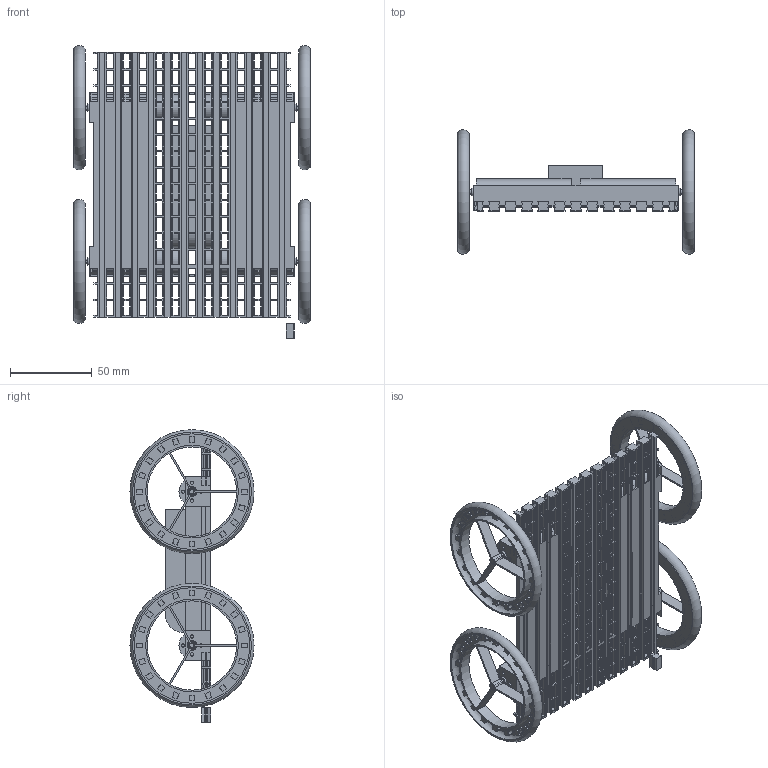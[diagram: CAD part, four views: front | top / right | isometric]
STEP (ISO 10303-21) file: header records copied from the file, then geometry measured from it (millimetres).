
FILE_DESCRIPTION(/* description */ (''),/* implementation_level */ '2;1');
FILE_NAME(/* name */ 'C:/Users/priba/Documents/Temp/mrm-bldc16x36-42.3_ChassisMazeLine.step',/* time_stamp */ '2019-11-02T07:45:44+01:00',/* author */ (''),/* organization */ (''),/* preprocessor_version */ 'ST-DEVELOPER v18',/* originating_system */ 'Autodesk Translation Framework v8.9.1.1155',/* authorisation */ '');
FILE_SCHEMA (('AUTOMOTIVE_DESIGN { 1 0 10303 214 3 1 1 }'));
Length unit declared in the file: millimetre
Products named in the file (16): mrm-bldc16x36-42.3_ChassisMazeLine; mrm-bldc16x36-42.3; mrm-bldc16x36-42.3 v2(Mirror); mrm-bldc16x36-42.3 v2(Mirror) (1); mrm-bldc16x36-42.3 v2(Mirror)(Mirror); BatteryZippy1000; Wheel3-70; Wheel3-70 v4(Mirror); WheelCenter3mm v3(Mirror); WheelTyre v5(Mirror) (2); Wheel3-70 v4(Mirror) (1); WheelCenter3mm v3(Mirror) (1); WheelTyre v5(Mirror); Wheel3-70 v4(Mirror)(Mirror) (1); WheelCenter3mm v3(Mirror)(Mirror) (1); WheelTyre v5(Mirror) (2)(Mirror)
Assembly tree (15 placements, depth 3):
  mrm-bldc16x36-42.3_ChassisMazeLine
    mrm-bldc16x36-42.3
    mrm-bldc16x36-42.3 v2(Mirror)
    mrm-bldc16x36-42.3 v2(Mirror) (1)
    mrm-bldc16x36-42.3 v2(Mirror)(Mirror)
    BatteryZippy1000
    Wheel3-70
    Wheel3-70 v4(Mirror)
      WheelCenter3mm v3(Mirror)
      WheelTyre v5(Mirror) (2)
    Wheel3-70 v4(Mirror) (1)
      WheelCenter3mm v3(Mirror) (1)
      WheelTyre v5(Mirror)
    Wheel3-70 v4(Mirror)(Mirror) (1)
      WheelCenter3mm v3(Mirror)(Mirror) (1)
      WheelTyre v5(Mirror) (2)(Mirror)
Bounding box: 144.5 x 75.83 x 178.91 mm (x, y, z)
Volume: 152421.1 mm3; surface area: 169272.3 mm2
Topology: 11 solids, 19 shells, 4077 faces, 12072 edges, 8040 vertices
Faces by surface type: plane 3884, cylinder 105, bspline 80, torus 8
Full cylindrical faces by diameter (mm): 2 x28, 3 x4, 4.6 x4, 6 x4, 6.083 x4, 16 x4, 56.6 x4
Entity records: 136891 total; most frequent: CARTESIAN_POINT 25580, ORIENTED_EDGE 24144, DIRECTION 20686, EDGE_CURVE 12072, LINE 11514, VECTOR 11514, VERTEX_POINT 8040, EDGE_LOOP 4866
